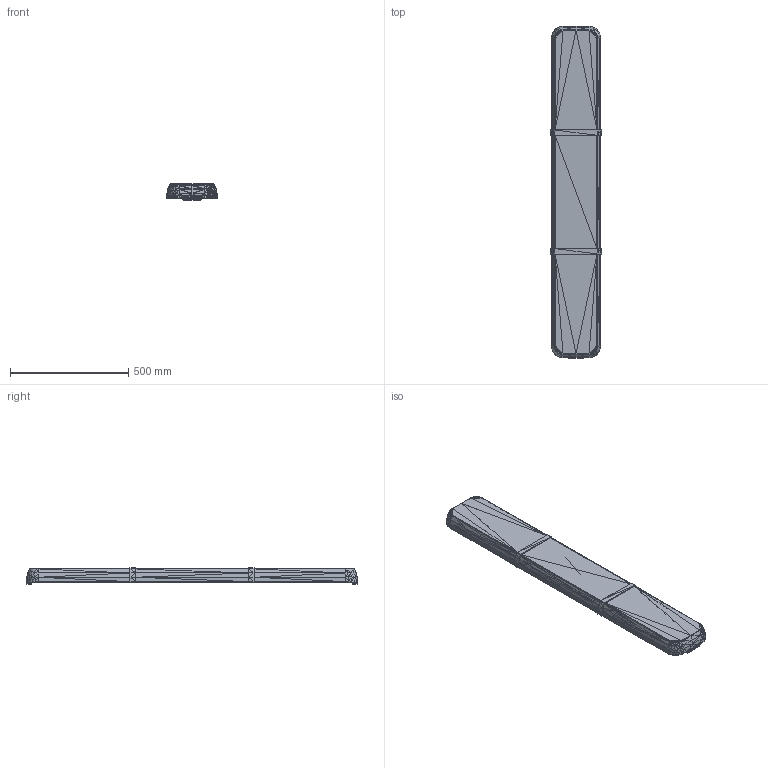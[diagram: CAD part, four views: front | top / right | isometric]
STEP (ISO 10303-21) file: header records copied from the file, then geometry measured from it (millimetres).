
FILE_DESCRIPTION(('FreeCAD Model'),'2;1');
FILE_NAME('H:/a_nauka/osoby_prywatne/06_trzebinia/2021/12marca/optima60-bp-140cm.step','2021-03-12T17:20:48',( 'Author'),(''),'Open CASCADE STEP processor 7.2','FreeCAD','Unknown' );
FILE_SCHEMA(('AUTOMOTIVE_DESIGN { 1 0 10303 214 1 1 1 1 }'));
Products named in the file (1): OPTIMA60_BP_140cm001
Bounding box: 216 x 1405 x 68.5 mm (x, y, z)
Surface area: 2372235 mm2 (no closed solid volume)
Topology: 0 solids, 5 shells, 15001 faces, 22508 edges, 6680 vertices
Faces by surface type: plane 15001
Entity records: 561341 total; most frequent: CARTESIAN_POINT 111730, DIRECTION 75083, LINE 45079, VECTOR 45079, ORIENTED_EDGE 45038, PCURVE 45038, DEFINITIONAL_REPRESENTATION 45038, EDGE_CURVE 22524
